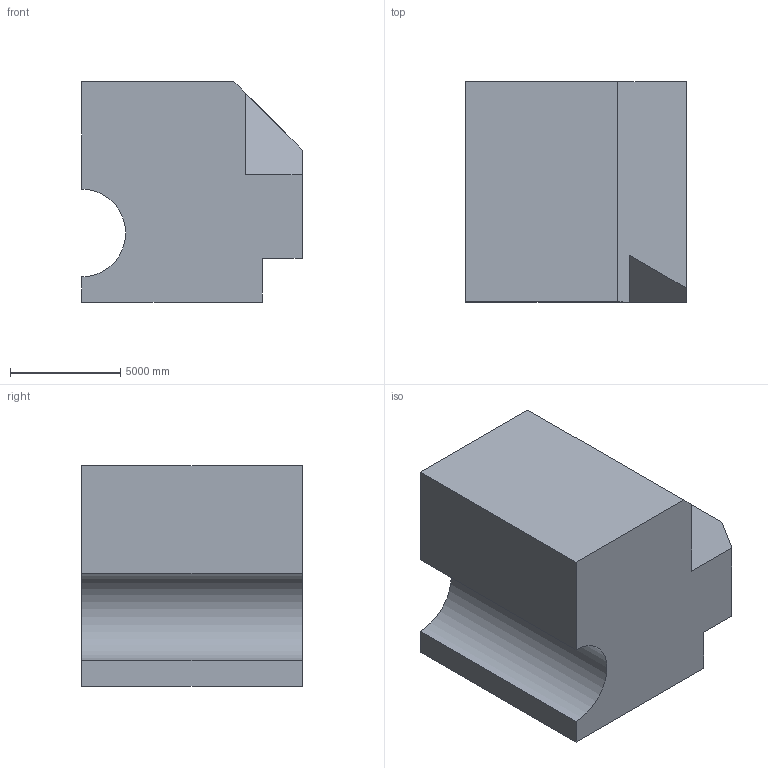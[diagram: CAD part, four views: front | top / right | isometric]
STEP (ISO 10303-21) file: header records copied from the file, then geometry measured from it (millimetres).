
FILE_DESCRIPTION (( 'STEP AP203' ), '1' );
FILE_NAME ('270.STEP', '2022-09-07T12:32:30', ( 'user' ), ( '' ), 'SwSTEP 2.0', 'SolidWorks 2021', '' );
FILE_SCHEMA (( 'CONFIG_CONTROL_DESIGN' ));
Length unit declared in the file: centimetre
Products named in the file (1): 270
Bounding box: 10000 x 10000 x 10000 mm (x, y, z)
Volume: 839003234512.8 mm3; surface area: 575230219.5 mm2
Topology: 1 solids, 1 shells, 14 faces, 36 edges, 24 vertices
Faces by surface type: plane 13, cylinder 1
Entity records: 499 total; most frequent: CARTESIAN_POINT 75, ORIENTED_EDGE 72, DIRECTION 68, EDGE_CURVE 36, LINE 34, VECTOR 34, VERTEX_POINT 24, AXIS2_PLACEMENT_3D 17
